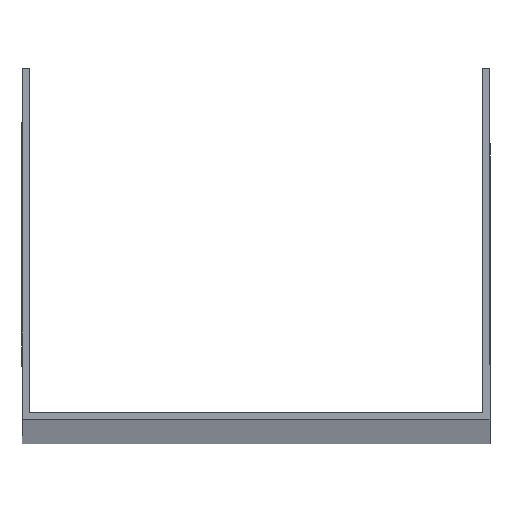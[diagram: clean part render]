
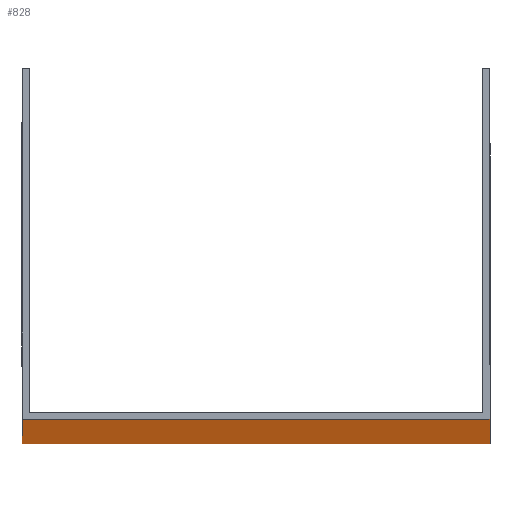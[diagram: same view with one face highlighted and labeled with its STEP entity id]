
A CAD part, top view. The second image highlights one B-rep face of the part: STEP entity #828.
In plain terms, the highlighted planar face has unit normal (0, -1, 0).
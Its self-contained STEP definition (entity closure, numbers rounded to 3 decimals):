
#40 = EDGE_LOOP ( 'NONE', ( #377, #839, #2124, #2269 ) ) ;
#112 = DIRECTION ( 'NONE',  ( 0., 0., -1. ) ) ;
#136 = FACE_OUTER_BOUND ( 'NONE', #40, .T. ) ;
#221 = EDGE_CURVE ( 'NONE', #824, #1728, #2317, .T. ) ;
#349 = PLANE ( 'NONE',  #2060 ) ;
#369 = DIRECTION ( 'NONE',  ( 1., 0., 0. ) ) ;
#377 = ORIENTED_EDGE ( 'NONE', *, *, #1937, .T. ) ;
#473 = CARTESIAN_POINT ( 'NONE',  ( -50., 0., 1500. ) ) ;
#594 = DIRECTION ( 'NONE',  ( 0., 0., -1. ) ) ;
#611 = LINE ( 'NONE', #1768, #1822 ) ;
#742 = CARTESIAN_POINT ( 'NONE',  ( -50., 0., -1500. ) ) ;
#824 = VERTEX_POINT ( 'NONE', #1126 ) ;
#828 = ADVANCED_FACE ( 'NONE', ( #136 ), #349, .F. ) ;
#839 = ORIENTED_EDGE ( 'NONE', *, *, #1441, .F. ) ;
#894 = VECTOR ( 'NONE', #112, 1000. ) ;
#920 = EDGE_CURVE ( 'NONE', #824, #1002, #611, .T. ) ;
#961 = CARTESIAN_POINT ( 'NONE',  ( -50., 0., 1500. ) ) ;
#994 = LINE ( 'NONE', #1761, #1050 ) ;
#1002 = VERTEX_POINT ( 'NONE', #1404 ) ;
#1050 = VECTOR ( 'NONE', #369, 1000. ) ;
#1126 = CARTESIAN_POINT ( 'NONE',  ( -50., 0., 1500. ) ) ;
#1157 = DIRECTION ( 'NONE',  ( 1., 0., 0. ) ) ;
#1404 = CARTESIAN_POINT ( 'NONE',  ( 50., 0., 1500. ) ) ;
#1441 = EDGE_CURVE ( 'NONE', #1002, #2493, #2444, .T. ) ;
#1655 = CARTESIAN_POINT ( 'NONE',  ( 50., 0., 1500. ) ) ;
#1728 = VERTEX_POINT ( 'NONE', #742 ) ;
#1761 = CARTESIAN_POINT ( 'NONE',  ( -50., 0., -1500. ) ) ;
#1768 = CARTESIAN_POINT ( 'NONE',  ( -50., 0., 1500. ) ) ;
#1781 = VECTOR ( 'NONE', #594, 1000. ) ;
#1822 = VECTOR ( 'NONE', #1157, 1000. ) ;
#1937 = EDGE_CURVE ( 'NONE', #1728, #2493, #994, .T. ) ;
#2044 = DIRECTION ( 'NONE',  ( 0., 1., 0. ) ) ;
#2060 = AXIS2_PLACEMENT_3D ( 'NONE', #473, #2044, #2270 ) ;
#2124 = ORIENTED_EDGE ( 'NONE', *, *, #920, .F. ) ;
#2161 = CARTESIAN_POINT ( 'NONE',  ( 50., 0., -1500. ) ) ;
#2269 = ORIENTED_EDGE ( 'NONE', *, *, #221, .T. ) ;
#2270 = DIRECTION ( 'NONE',  ( -1., 0., 0. ) ) ;
#2317 = LINE ( 'NONE', #961, #1781 ) ;
#2444 = LINE ( 'NONE', #1655, #894 ) ;
#2493 = VERTEX_POINT ( 'NONE', #2161 ) ;
